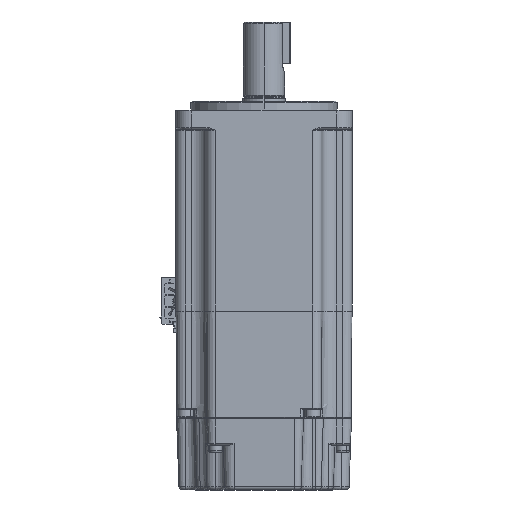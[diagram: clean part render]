
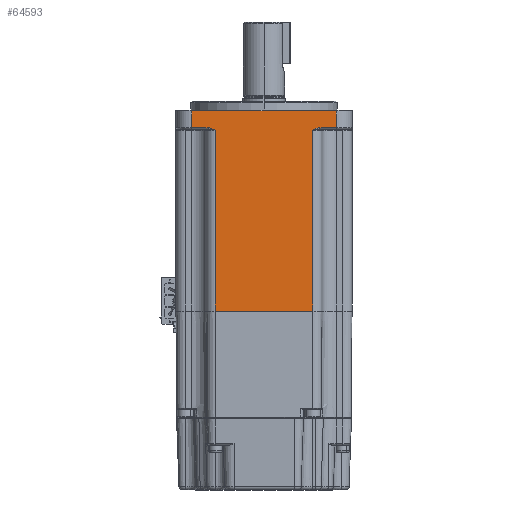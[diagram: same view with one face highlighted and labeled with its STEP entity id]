
A CAD part, front view. The second image highlights one B-rep face of the part: STEP entity #64593.
In plain terms, the highlighted planar face has unit normal (0, -1, 0).
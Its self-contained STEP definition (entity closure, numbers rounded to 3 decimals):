
#748 = CARTESIAN_POINT ( 'NONE',  ( -16.549, -30., -71.5 ) ) ;
#1386 = FACE_OUTER_BOUND ( 'NONE', #31201, .T. ) ;
#1550 = CARTESIAN_POINT ( 'NONE',  ( 18.174, -30., -9.156 ) ) ;
#1788 = ORIENTED_EDGE ( 'NONE', *, *, #2184, .T. ) ;
#2164 = CARTESIAN_POINT ( 'NONE',  ( 16.549, -30., 82.153 ) ) ;
#2184 = EDGE_CURVE ( 'NONE', #25234, #50918, #54583, .T. ) ;
#2291 = LINE ( 'NONE', #64354, #6879 ) ;
#3706 = VERTEX_POINT ( 'NONE', #19176 ) ;
#4674 = CARTESIAN_POINT ( 'NONE',  ( 24.7, -30., 82.153 ) ) ;
#5955 = CARTESIAN_POINT ( 'NONE',  ( -19.079, -30., -9. ) ) ;
#6291 = CARTESIAN_POINT ( 'NONE',  ( -18.619, -30., -9.037 ) ) ;
#6879 = VECTOR ( 'NONE', #41398, 1000. ) ;
#7475 = ORIENTED_EDGE ( 'NONE', *, *, #49446, .T. ) ;
#9244 = VECTOR ( 'NONE', #52931, 1000. ) ;
#11543 = VERTEX_POINT ( 'NONE', #49143 ) ;
#12660 = DIRECTION ( 'NONE',  ( 0., 1., 0. ) ) ;
#13023 = PLANE ( 'NONE',  #57774 ) ;
#13896 = VECTOR ( 'NONE', #49153, 1000. ) ;
#14191 = ORIENTED_EDGE ( 'NONE', *, *, #65600, .T. ) ;
#15018 = LINE ( 'NONE', #26717, #43462 ) ;
#15569 = VERTEX_POINT ( 'NONE', #67108 ) ;
#16070 = EDGE_CURVE ( 'NONE', #43689, #30905, #27296, .T. ) ;
#16748 = CARTESIAN_POINT ( 'NONE',  ( -24.7, -30., -3.3 ) ) ;
#17283 = CARTESIAN_POINT ( 'NONE',  ( -17.332, -30., -9.522 ) ) ;
#17644 = CARTESIAN_POINT ( 'NONE',  ( -18.174, -30., -9.156 ) ) ;
#18527 = ORIENTED_EDGE ( 'NONE', *, *, #48217, .T. ) ;
#18897 = ORIENTED_EDGE ( 'NONE', *, *, #16070, .F. ) ;
#19176 = CARTESIAN_POINT ( 'NONE',  ( 16.549, -30., -71.5 ) ) ;
#21379 = CARTESIAN_POINT ( 'NONE',  ( -16.549, -30., 82.153 ) ) ;
#21755 = DIRECTION ( 'NONE',  ( 0., 0., -1. ) ) ;
#22413 = CARTESIAN_POINT ( 'NONE',  ( -17.957, -30., -9.239 ) ) ;
#22995 = VECTOR ( 'NONE', #29722, 1000. ) ;
#23130 = CARTESIAN_POINT ( 'NONE',  ( -18.846, -30., -9. ) ) ;
#23837 = CARTESIAN_POINT ( 'NONE',  ( 18.846, -30., -9. ) ) ;
#23841 = CARTESIAN_POINT ( 'NONE',  ( -16.941, -30., -9.761 ) ) ;
#24047 = VERTEX_POINT ( 'NONE', #26557 ) ;
#25180 = CARTESIAN_POINT ( 'NONE',  ( 18.619, -30., -9.037 ) ) ;
#25234 = VERTEX_POINT ( 'NONE', #47300 ) ;
#26557 = CARTESIAN_POINT ( 'NONE',  ( -16.549, -30., -10. ) ) ;
#26717 = CARTESIAN_POINT ( 'NONE',  ( 24.7, -30., -9. ) ) ;
#27079 = CARTESIAN_POINT ( 'NONE',  ( 19.079, -30., -9. ) ) ;
#27296 = LINE ( 'NONE', #4674, #35678 ) ;
#27581 = LINE ( 'NONE', #21379, #44176 ) ;
#28582 = CARTESIAN_POINT ( 'NONE',  ( -16.549, -30., -10. ) ) ;
#29449 = EDGE_CURVE ( 'NONE', #15569, #24047, #57058, .T. ) ;
#29722 = DIRECTION ( 'NONE',  ( 1., 0., 0. ) ) ;
#30623 = LINE ( 'NONE', #2164, #9244 ) ;
#30905 = VERTEX_POINT ( 'NONE', #31691 ) ;
#31027 = CARTESIAN_POINT ( 'NONE',  ( 16.939, -30., -9.762 ) ) ;
#31201 = EDGE_LOOP ( 'NONE', ( #70239, #59957, #57859, #1788, #50565, #18897, #18527, #14191, #7475, #39870 ) ) ;
#31691 = CARTESIAN_POINT ( 'NONE',  ( 24.7, -30., -9. ) ) ;
#32707 = EDGE_CURVE ( 'NONE', #59699, #3706, #35233, .T. ) ;
#33500 = EDGE_CURVE ( 'NONE', #24047, #59699, #27581, .T. ) ;
#35004 = CARTESIAN_POINT ( 'NONE',  ( 24.7, -30., 82.153 ) ) ;
#35182 = CARTESIAN_POINT ( 'NONE',  ( 16.549, -30., -10. ) ) ;
#35233 = LINE ( 'NONE', #57516, #22995 ) ;
#35678 = VECTOR ( 'NONE', #60207, 1000. ) ;
#37008 = CARTESIAN_POINT ( 'NONE',  ( 24.7, -30., -3.3 ) ) ;
#37352 = DIRECTION ( 'NONE',  ( 1., 0., 0. ) ) ;
#37504 = CARTESIAN_POINT ( 'NONE',  ( -16.549, -30., -9. ) ) ;
#39870 = ORIENTED_EDGE ( 'NONE', *, *, #29449, .T. ) ;
#41398 = DIRECTION ( 'NONE',  ( -1., 0., 0. ) ) ;
#43462 = VECTOR ( 'NONE', #37352, 1000. ) ;
#43689 = VERTEX_POINT ( 'NONE', #37008 ) ;
#44176 = VECTOR ( 'NONE', #21755, 1000. ) ;
#45815 = EDGE_CURVE ( 'NONE', #3706, #25234, #30623, .T. ) ;
#46146 = CARTESIAN_POINT ( 'NONE',  ( 19.079, -30., -9. ) ) ;
#47300 = CARTESIAN_POINT ( 'NONE',  ( 16.549, -30., -10. ) ) ;
#47830 = LINE ( 'NONE', #59542, #59119 ) ;
#48180 = DIRECTION ( 'NONE',  ( 0., 0., -1. ) ) ;
#48217 = EDGE_CURVE ( 'NONE', #43689, #60520, #2291, .T. ) ;
#48423 = LINE ( 'NONE', #37504, #13896 ) ;
#49143 = CARTESIAN_POINT ( 'NONE',  ( -24.7, -30., -9. ) ) ;
#49153 = DIRECTION ( 'NONE',  ( 1., 0., 0. ) ) ;
#49446 = EDGE_CURVE ( 'NONE', #11543, #15569, #48423, .T. ) ;
#50565 = ORIENTED_EDGE ( 'NONE', *, *, #50859, .T. ) ;
#50859 = EDGE_CURVE ( 'NONE', #50918, #30905, #15018, .T. ) ;
#50918 = VERTEX_POINT ( 'NONE', #27079 ) ;
#52931 = DIRECTION ( 'NONE',  ( 0., 0., 1. ) ) ;
#53339 = CARTESIAN_POINT ( 'NONE',  ( 17.957, -30., -9.239 ) ) ;
#54583 = B_SPLINE_CURVE_WITH_KNOTS ( 'NONE', 3,
 ( #35182, #31027, #62575, #53339, #1550, #25180, #23837, #46146 ),
 .UNSPECIFIED., .F., .F.,
 ( 4, 2, 2, 4 ),
 ( 0., 0.001, 0.002, 0.003 ),
 .UNSPECIFIED. ) ;
#57058 = B_SPLINE_CURVE_WITH_KNOTS ( 'NONE', 3,
 ( #5955, #23130, #6291, #17644, #22413, #17283, #23841, #28582 ),
 .UNSPECIFIED., .F., .F.,
 ( 4, 2, 2, 4 ),
 ( 0., 0.001, 0.001, 0.003 ),
 .UNSPECIFIED. ) ;
#57516 = CARTESIAN_POINT ( 'NONE',  ( 24.7, -30., -71.5 ) ) ;
#57774 = AXIS2_PLACEMENT_3D ( 'NONE', #35004, #12660, #63461 ) ;
#57859 = ORIENTED_EDGE ( 'NONE', *, *, #45815, .T. ) ;
#59119 = VECTOR ( 'NONE', #48180, 1000. ) ;
#59542 = CARTESIAN_POINT ( 'NONE',  ( -24.7, -30., 82.153 ) ) ;
#59699 = VERTEX_POINT ( 'NONE', #748 ) ;
#59957 = ORIENTED_EDGE ( 'NONE', *, *, #32707, .T. ) ;
#60207 = DIRECTION ( 'NONE',  ( 0., 0., -1. ) ) ;
#60520 = VERTEX_POINT ( 'NONE', #16748 ) ;
#62575 = CARTESIAN_POINT ( 'NONE',  ( 17.332, -30., -9.522 ) ) ;
#63461 = DIRECTION ( 'NONE',  ( -1., 0., 0. ) ) ;
#64354 = CARTESIAN_POINT ( 'NONE',  ( 24.7, -30., -3.3 ) ) ;
#64593 = ADVANCED_FACE ( 'NONE', ( #1386 ), #13023, .F. ) ;
#65600 = EDGE_CURVE ( 'NONE', #60520, #11543, #47830, .T. ) ;
#67108 = CARTESIAN_POINT ( 'NONE',  ( -19.079, -30., -9. ) ) ;
#70239 = ORIENTED_EDGE ( 'NONE', *, *, #33500, .T. ) ;
